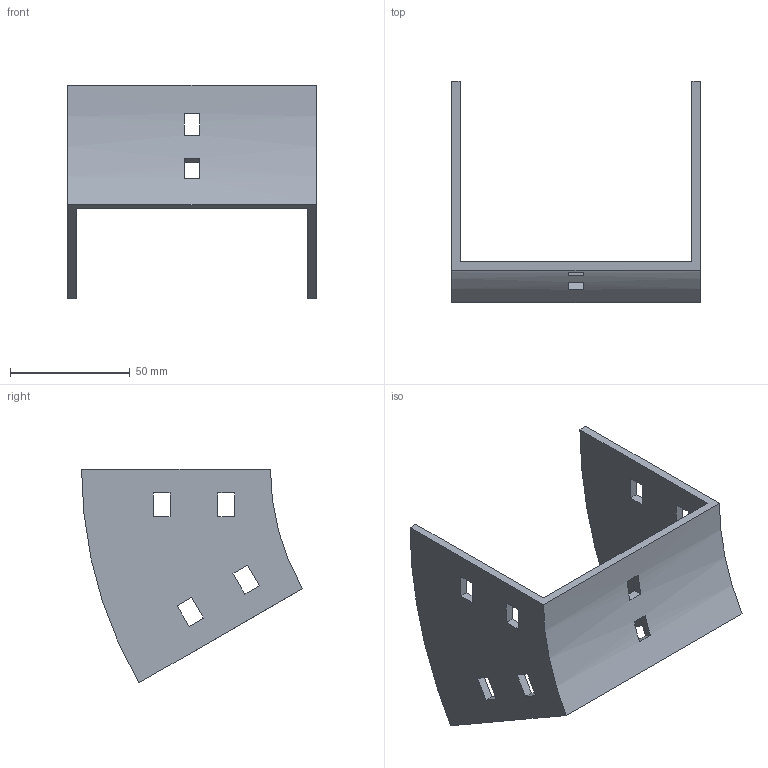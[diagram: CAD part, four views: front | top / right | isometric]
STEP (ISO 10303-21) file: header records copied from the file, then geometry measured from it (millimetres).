
FILE_DESCRIPTION (( 'STEP AP214' ), '1' );
FILE_NAME ('35B1C100.step', '2025-02-21T09:26:20', ( '' ), ( '' ), 'SwSTEP 2.0', 'SolidWorks 2023', '' );
FILE_SCHEMA (( 'AUTOMOTIVE_DESIGN' ));
Length unit declared in the file: millimetre
Products named in the file (1): 35B1C100
Bounding box: 104 x 92.4 x 89.5 mm (x, y, z)
Volume: 56104.4 mm3; surface area: 35666.3 mm2
Topology: 1 solids, 1 shells, 50 faces, 144 edges, 96 vertices
Faces by surface type: plane 46, cylinder 4
Entity records: 1687 total; most frequent: CARTESIAN_POINT 291, ORIENTED_EDGE 288, DIRECTION 262, EDGE_CURVE 144, LINE 128, VECTOR 128, VERTEX_POINT 96, EDGE_LOOP 70
